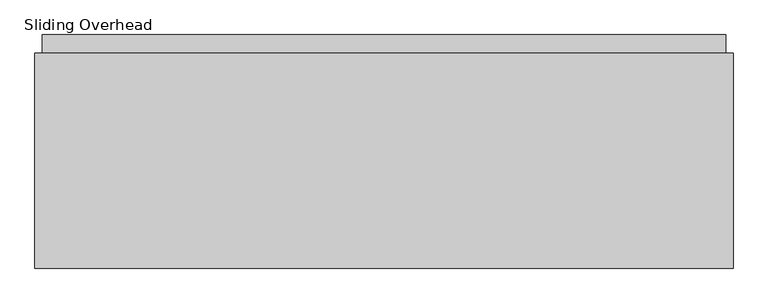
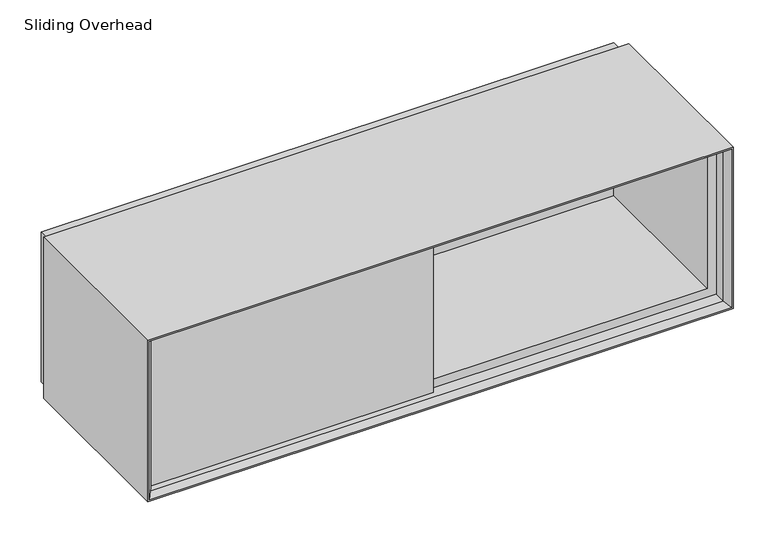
"""IFC4 building model written with IfcOpenShell, lengths in millimetres: furniture geometry."""

from ifc_helpers import new_model, si_unit, frame, origin, place, context, project, spatial, polyline, outline, extrude, faceted_brep, source, transform, mapped, element, save


def sliding_overhead_ab71ba96(model_context):
    return source(origin(), model_context, "Body", "SolidModel", [
        extrude(outline(polyline([(609.6, 38.1), (31.75, 38.1), (31.75, 50.8), (609.6, 50.8), (609.6, 38.1)])), frame((0.0, 0.0, 1555.75), z_axis=(0.0, 0.0, 1.0), x_axis=(1.0, 0.0, 0.0)), (0.0, 0.0, 1.0), 292.1),
        extrude(outline(polyline([(609.6, 25.4), (12.7, 25.4), (12.7, 38.1), (609.6, 38.1), (609.6, 25.4)])), frame((0.0, 0.0, 1536.7), z_axis=(0.0, 0.0, 1.0), x_axis=(1.0, 0.0, 0.0)), (0.0, 0.0, 1.0), 330.2),
        extrude(outline(polyline([(615.95, 376.2375), (615.95, 50.8), (603.25, 50.8), (603.25, 376.2375), (615.95, 376.2375)])), frame((0.0, 0.0, 1555.75), z_axis=(0.0, 0.0, 1.0), x_axis=(1.0, 0.0, 0.0)), (0.0, 0.0, 1.0), 292.1),
        extrude(outline(polyline([(1206.5, 376.2375), (12.7, 376.2375), (12.7, 407.9875), (1206.5, 407.9875), (1206.5, 376.2375)])), frame((0.0, 0.0, 1536.7), z_axis=(0.0, 0.0, 1.0), x_axis=(1.0, 0.0, 0.0)), (0.0, 0.0, 1.0), 330.2),
        extrude(outline(polyline([(1866.9, 1206.5), (1866.9, 12.7), (1536.7, 12.7), (1536.7, 1206.5), (1866.9, 1206.5)]), holes=[polyline([(1847.85, 31.75), (1847.85, 1187.45), (1555.75, 1187.45), (1555.75, 31.75), (1847.85, 31.75)])]), frame((0.0, 38.1, 0.0), z_axis=(0.0, 1.0, 0.0), x_axis=(0.0, 0.0, 1.0)), (0.0, 0.0, 1.0), 338.1375),
        faceted_brep([(1206.5, 12.7, 1866.9), (1206.5, 376.2375, 1866.9), (1206.5, 376.2375, 1536.7), (1206.5, 12.7, 1536.7), (1216.025, 0.0, 1876.425), (1216.025, 0.0, 1527.175), (1219.2, 376.2375, 1879.6), (1219.2, 0.0, 1879.6), (1219.2, 0.0, 1524.0), (1219.2, 376.2375, 1524.0), (12.7, 376.2375, 1536.7), (12.7, 12.7, 1536.7), (3.175, 0.0, 1527.175), (0.0, 0.0, 1524.0), (0.0, 376.2375, 1524.0), (12.7, 376.2375, 1866.9), (12.7, 12.7, 1866.9), (3.175, 0.0, 1876.425), (0.0, 0.0, 1879.6), (0.0, 376.2375, 1879.6)], [[[0, 1, 2, 3]], [[4, 0, 3, 5]], [[6, 7, 8, 9]], [[3, 2, 10, 11]], [[5, 3, 11, 12]], [[9, 8, 13, 14]], [[11, 10, 15, 16]], [[12, 11, 16, 17]], [[14, 13, 18, 19]], [[9, 14, 19, 6], [1, 15, 10, 2]], [[16, 15, 1, 0]], [[17, 16, 0, 4]], [[7, 18, 13, 8], [5, 12, 17, 4]], [[19, 18, 7, 6]]]),
    ])


if __name__ == "__main__":
    model = new_model("IFC4")
    model_context = context("Model", 3, world=origin())
    ifc_project = project(units=[si_unit("LENGTHUNIT", "METRE", prefix="MILLI")], contexts=[model_context])
    site = spatial("IfcSite", under=ifc_project)
    building = spatial("IfcBuilding", under=site)
    placement = place(None, origin())
    sliding_overhead_shape = sliding_overhead_ab71ba96(model_context)
    element("IfcFurniture", 1, ObjectType="Sliding Overhead : 1 1/4\" Backpanel - 48\" W", at=placement, inside=building, context=model_context, shape_type="MappedRepresentation", body=[
        mapped(sliding_overhead_shape, transform((0.0, 0.0, 0.0), x_axis=(1.0, 0.0, 0.0), y_axis=(0.0, 1.0, 0.0), z_axis=(0.0, 0.0, 1.0))),
    ])
    save(model, "model.ifc")
